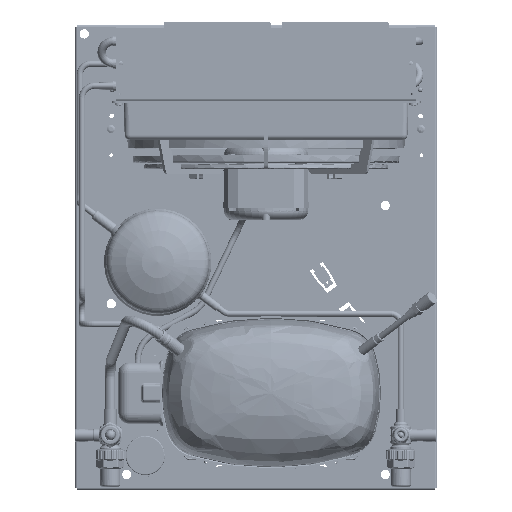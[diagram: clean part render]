
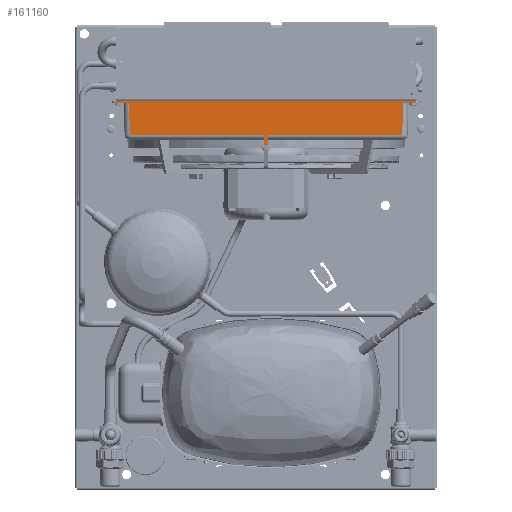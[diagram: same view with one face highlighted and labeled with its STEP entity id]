
A CAD part, top view. The second image highlights one B-rep face of the part: STEP entity #161160.
In plain terms, the highlighted planar face has unit normal (0, -0.018, 1) as drawn and (0, 1, 0.017) by its records, which use the part's own axes.
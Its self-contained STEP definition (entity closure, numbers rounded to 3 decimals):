
#3399=B_SPLINE_CURVE_WITH_KNOTS('',3,(#284001,#284002,#284003,#284004,#284005,
#284006,#284007,#284008,#284009,#284010),.UNSPECIFIED.,.F.,.F.,(4,1,1,1,
1,1,1,4),(0.,0.001,0.001,
0.001,0.002,0.002,0.002,
0.002),.UNSPECIFIED.);
#3400=B_SPLINE_CURVE_WITH_KNOTS('',3,(#284152,#284153,#284154,#284155,#284156,
#284157,#284158,#284159,#284160,#284161),.UNSPECIFIED.,.F.,.F.,(4,1,1,1,
1,1,1,4),(0.,0.001,0.001,
0.001,0.002,0.002,0.002,
0.002),.UNSPECIFIED.);
#64766=ORIENTED_EDGE('',*,*,#95304,.F.);
#64767=ORIENTED_EDGE('',*,*,#95305,.T.);
#64768=ORIENTED_EDGE('',*,*,#95306,.T.);
#64769=ORIENTED_EDGE('',*,*,#93672,.F.);
#64770=ORIENTED_EDGE('',*,*,#95218,.T.);
#64771=ORIENTED_EDGE('',*,*,#93623,.F.);
#64772=ORIENTED_EDGE('',*,*,#95289,.F.);
#64773=ORIENTED_EDGE('',*,*,#93647,.T.);
#64774=ORIENTED_EDGE('',*,*,#95307,.T.);
#64775=ORIENTED_EDGE('',*,*,#95308,.T.);
#64776=ORIENTED_EDGE('',*,*,#95309,.T.);
#64777=ORIENTED_EDGE('',*,*,#95310,.F.);
#93623=EDGE_CURVE('',#110277,#110278,#121340,.T.);
#93647=EDGE_CURVE('',#110301,#110302,#121360,.T.);
#93672=EDGE_CURVE('',#110326,#110327,#121380,.T.);
#95218=EDGE_CURVE('',#110326,#110278,#3399,.T.);
#95289=EDGE_CURVE('',#110301,#110277,#3400,.T.);
#95304=EDGE_CURVE('',#111389,#111390,#121792,.T.);
#95305=EDGE_CURVE('',#111389,#111391,#121793,.F.);
#95306=EDGE_CURVE('',#111391,#110327,#121794,.F.);
#95307=EDGE_CURVE('',#110302,#111392,#121795,.T.);
#95308=EDGE_CURVE('',#111392,#111393,#121796,.F.);
#95309=EDGE_CURVE('',#111393,#111394,#121797,.T.);
#95310=EDGE_CURVE('',#111390,#111394,#121798,.T.);
#110277=VERTEX_POINT('',#247336);
#110278=VERTEX_POINT('',#247338);
#110301=VERTEX_POINT('',#247386);
#110302=VERTEX_POINT('',#247387);
#110326=VERTEX_POINT('',#247436);
#110327=VERTEX_POINT('',#247438);
#111389=VERTEX_POINT('',#284193);
#111390=VERTEX_POINT('',#284194);
#111391=VERTEX_POINT('',#284196);
#111392=VERTEX_POINT('',#284199);
#111393=VERTEX_POINT('',#284201);
#111394=VERTEX_POINT('',#284203);
#121340=LINE('',#247337,#128853);
#121360=LINE('',#247385,#128873);
#121380=LINE('',#247437,#128893);
#121792=LINE('',#284192,#129305);
#121793=LINE('',#284195,#129306);
#121794=LINE('',#284197,#129307);
#121795=LINE('',#284198,#129308);
#121796=LINE('',#284200,#129309);
#121797=LINE('',#284202,#129310);
#121798=LINE('',#284204,#129311);
#128853=VECTOR('',#184113,1000.);
#128873=VECTOR('',#184143,1000.);
#128893=VECTOR('',#184175,1000.);
#129305=VECTOR('',#185923,1000.);
#129306=VECTOR('',#185924,1000.);
#129307=VECTOR('',#185925,1000.);
#129308=VECTOR('',#185926,1000.);
#129309=VECTOR('',#185927,1000.);
#129310=VECTOR('',#185928,1000.);
#129311=VECTOR('',#185929,1000.);
#137868=EDGE_LOOP('',(#64766,#64767,#64768,#64769,#64770,#64771,#64772,
#64773,#64774,#64775,#64776,#64777));
#147746=FACE_BOUND('',#137868,.T.);
#154919=PLANE('',#170122);
#161160=ADVANCED_FACE('',(#147746),#154919,.F.);
#170122=AXIS2_PLACEMENT_3D('',#284191,#185921,#185922);
#184113=DIRECTION('',(1.,0.,0.));
#184143=DIRECTION('',(1.,0.,0.));
#184175=DIRECTION('',(-1.,0.,0.));
#185921=DIRECTION('',(0.,-1.,-0.017));
#185922=DIRECTION('',(0.,0.017,-1.));
#185923=DIRECTION('',(0.,-0.017,1.));
#185924=DIRECTION('',(-1.,0.,0.));
#185925=DIRECTION('',(-0.017,-0.017,1.));
#185926=DIRECTION('',(0.017,-0.017,1.));
#185927=DIRECTION('',(-1.,0.,0.));
#185928=DIRECTION('',(0.,-0.017,1.));
#185929=DIRECTION('',(-1.,0.,0.));
#247336=CARTESIAN_POINT('',(-144.375,138.363,0.));
#247337=CARTESIAN_POINT('',(-144.375,138.363,0.));
#247338=CARTESIAN_POINT('',(144.375,138.363,0.));
#247385=CARTESIAN_POINT('',(140.869,138.328,2.));
#247386=CARTESIAN_POINT('',(-144.965,138.328,2.));
#247387=CARTESIAN_POINT('',(-132.329,138.328,2.));
#247436=CARTESIAN_POINT('',(144.965,138.328,2.));
#247437=CARTESIAN_POINT('',(140.869,138.328,2.));
#247438=CARTESIAN_POINT('',(132.329,138.328,2.));
#284001=CARTESIAN_POINT('',(144.965,138.328,2.));
#284002=CARTESIAN_POINT('',(144.939,138.331,1.824));
#284003=CARTESIAN_POINT('',(144.884,138.338,1.472));
#284004=CARTESIAN_POINT('',(144.802,138.345,1.035));
#284005=CARTESIAN_POINT('',(144.723,138.351,0.688));
#284006=CARTESIAN_POINT('',(144.653,138.356,0.431));
#284007=CARTESIAN_POINT('',(144.577,138.359,0.22));
#284008=CARTESIAN_POINT('',(144.492,138.362,0.066));
#284009=CARTESIAN_POINT('',(144.42,138.363,0.));
#284010=CARTESIAN_POINT('',(144.375,138.363,0.));
#284152=CARTESIAN_POINT('',(-144.965,138.328,2.));
#284153=CARTESIAN_POINT('',(-144.939,138.331,1.824));
#284154=CARTESIAN_POINT('',(-144.884,138.338,1.472));
#284155=CARTESIAN_POINT('',(-144.802,138.345,1.035));
#284156=CARTESIAN_POINT('',(-144.723,138.351,0.688));
#284157=CARTESIAN_POINT('',(-144.653,138.356,0.431));
#284158=CARTESIAN_POINT('',(-144.577,138.359,0.22));
#284159=CARTESIAN_POINT('',(-144.492,138.362,0.066));
#284160=CARTESIAN_POINT('',(-144.42,138.363,0.));
#284161=CARTESIAN_POINT('',(-144.375,138.363,0.));
#284191=CARTESIAN_POINT('',(432.954,137.811,31.613));
#284192=CARTESIAN_POINT('',(1.5,137.617,42.731));
#284193=CARTESIAN_POINT('',(1.5,137.786,33.087));
#284194=CARTESIAN_POINT('',(1.5,137.617,42.731));
#284195=CARTESIAN_POINT('',(432.954,137.786,33.087));
#284196=CARTESIAN_POINT('',(131.787,137.786,33.087));
#284197=CARTESIAN_POINT('',(132.331,138.33,1.913));
#284198=CARTESIAN_POINT('',(-131.702,137.702,37.913));
#284199=CARTESIAN_POINT('',(-131.787,137.786,33.087));
#284200=CARTESIAN_POINT('',(432.954,137.786,33.087));
#284201=CARTESIAN_POINT('',(-1.5,137.786,33.087));
#284202=CARTESIAN_POINT('',(-1.5,137.617,42.731));
#284203=CARTESIAN_POINT('',(-1.5,137.617,42.731));
#284204=CARTESIAN_POINT('',(1.5,137.617,42.731));
